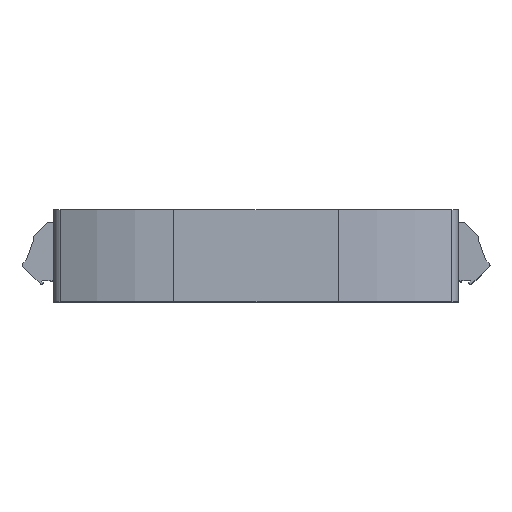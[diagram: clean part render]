
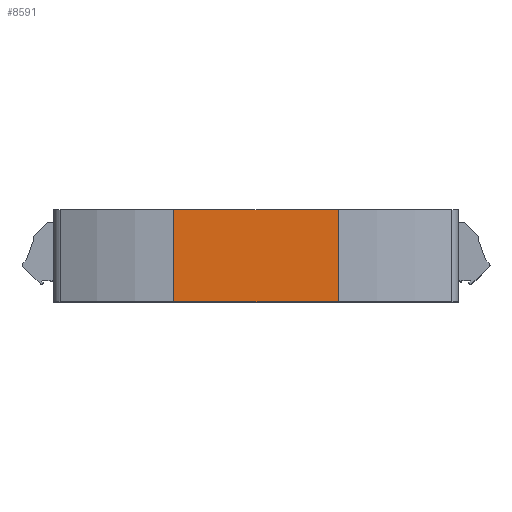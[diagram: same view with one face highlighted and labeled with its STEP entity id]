
A CAD part, top view. The second image highlights one B-rep face of the part: STEP entity #8591.
In plain terms, the highlighted planar face has unit normal (0, 0, 1).
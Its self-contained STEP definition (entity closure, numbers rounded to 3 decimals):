
#1156=FACE_OUTER_BOUND('',#1626,.T.);
#1626=EDGE_LOOP('',(#7819,#7820,#7821,#7822));
#2214=LINE('',#13351,#3134);
#2244=LINE('',#13439,#3164);
#2542=LINE('',#14165,#3462);
#2546=LINE('',#14175,#3466);
#3134=VECTOR('',#10854,10.);
#3164=VECTOR('',#10914,10.);
#3462=VECTOR('',#11736,10.);
#3466=VECTOR('',#11752,10.);
#4009=VERTEX_POINT('',#13348);
#4010=VERTEX_POINT('',#13350);
#4052=VERTEX_POINT('',#13436);
#4053=VERTEX_POINT('',#13438);
#4992=EDGE_CURVE('',#4009,#4010,#2214,.T.);
#5036=EDGE_CURVE('',#4052,#4053,#2244,.T.);
#5416=EDGE_CURVE('',#4010,#4052,#2542,.T.);
#5420=EDGE_CURVE('',#4009,#4053,#2546,.T.);
#7819=ORIENTED_EDGE('',*,*,#5416,.F.);
#7820=ORIENTED_EDGE('',*,*,#4992,.F.);
#7821=ORIENTED_EDGE('',*,*,#5420,.T.);
#7822=ORIENTED_EDGE('',*,*,#5036,.F.);
#8146=PLANE('',#9354);
#8591=ADVANCED_FACE('',(#1156),#8146,.T.);
#9354=AXIS2_PLACEMENT_3D('',#14176,#11753,#11754);
#10854=DIRECTION('',(1.,0.,0.));
#10914=DIRECTION('',(-1.,0.,0.));
#11736=DIRECTION('',(0.,-1.,0.));
#11752=DIRECTION('',(0.,-1.,0.));
#11753=DIRECTION('center_axis',(0.,0.,1.));
#11754=DIRECTION('ref_axis',(-1.,0.,0.));
#13348=CARTESIAN_POINT('',(-20.5,10.,120.));
#13350=CARTESIAN_POINT('',(20.5,10.,120.));
#13351=CARTESIAN_POINT('',(-50.5,10.,120.));
#13436=CARTESIAN_POINT('',(20.5,-13.,120.));
#13438=CARTESIAN_POINT('',(-20.5,-13.,120.));
#13439=CARTESIAN_POINT('',(-50.5,-13.,120.));
#14165=CARTESIAN_POINT('',(20.5,-13.,120.));
#14175=CARTESIAN_POINT('',(-20.5,-13.,120.));
#14176=CARTESIAN_POINT('Origin',(50.5,10.,120.));
